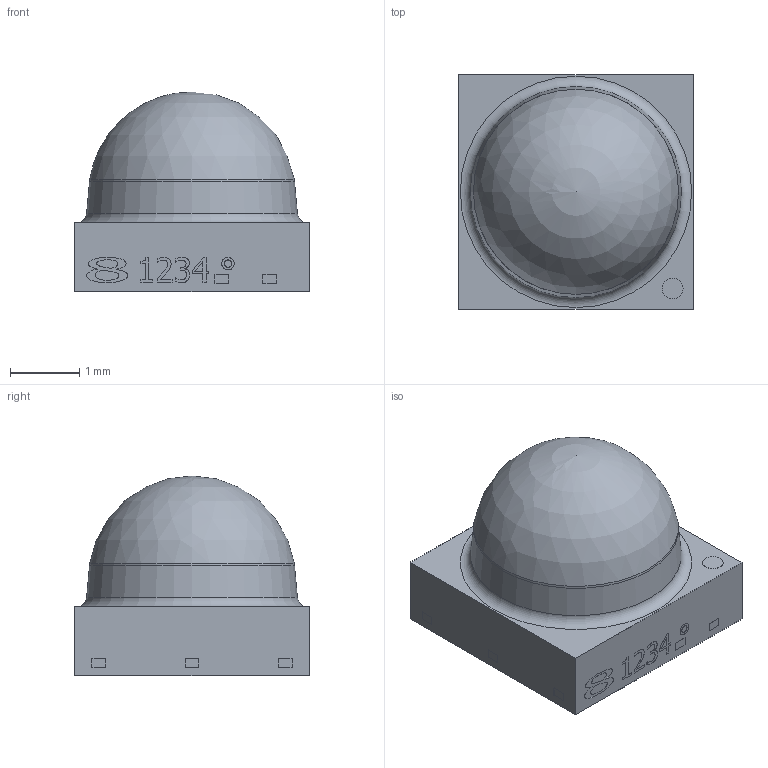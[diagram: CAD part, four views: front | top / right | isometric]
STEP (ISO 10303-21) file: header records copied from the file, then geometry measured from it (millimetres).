
FILE_DESCRIPTION(/* description */ (''),/* implementation_level */ '2;1');
FILE_NAME(/* name */ 'C:\Projekte\MiIred\VSMA10 3.4 x 3.4 OSRAM Footprint\3D_Marcom_2023_10_25\VSMA10xx25 MARCOM.stp',/* time_stamp */ '2023-10-25T14:04:08+02:00',/* author */ ('pmuehleck'),/* organization */ (''),/* preprocessor_version */ 'ST-DEVELOPER v18.1',/* originating_system */ 'Autodesk Inventor 2022',/* authorisation */ '');
FILE_SCHEMA (('AUTOMOTIVE_DESIGN { 1 0 10303 214 3 1 1 }'));
Length unit declared in the file: millimetre
Products named in the file (1): PM-10065
Bounding box: 3.4 x 3.4 x 2.9 mm (x, y, z)
Volume: 21.5 mm3; surface area: 46.8 mm2
Topology: 1 solids, 1 shells, 199 faces, 517 edges, 344 vertices
Faces by surface type: plane 123, bspline 58, cylinder 14, torus 2, sphere 1, cone 1
Full cylindrical faces by diameter (mm): 0.3 x1
Entity records: 6679 total; most frequent: CARTESIAN_POINT 2009, ORIENTED_EDGE 1032, DIRECTION 720, EDGE_CURVE 516, LINE 364, VECTOR 364, VERTEX_POINT 344, EDGE_LOOP 224
